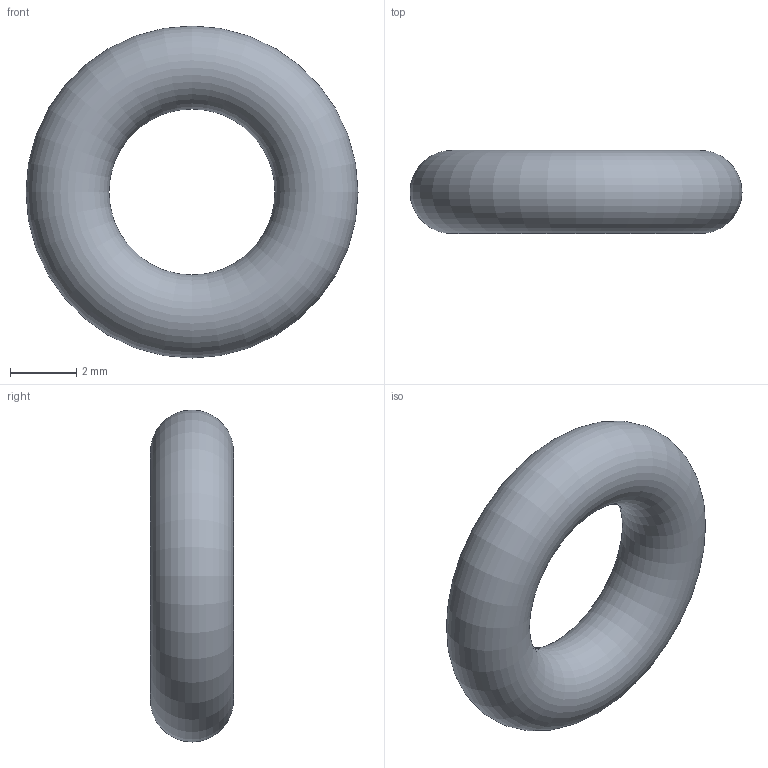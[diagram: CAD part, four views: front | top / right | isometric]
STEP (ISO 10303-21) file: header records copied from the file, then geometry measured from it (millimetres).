
FILE_DESCRIPTION( ( 'STEP AP203' ), '1' );
FILE_NAME( 'C:/Temp/Ganter_Step_05_03_2020/data/3_5/or638/O-Ring OR638-5.00-2.50-70.stp', '2020-03-12T13:44:26', ( 'License CC BY-ND 4.0' ), ( 'CADENAS' ), ' ', 'PARTsolutions', ' ' );
FILE_SCHEMA( ( 'CONFIG_CONTROL_DESIGN' ) );
Length unit declared in the file: millimetre
Products named in the file (1): _O-Ring OR638-5.00-2.50-70
Bounding box: 10 x 2.5 x 10 mm (x, y, z)
Volume: 115.7 mm3; surface area: 185.1 mm2
Topology: 1 solids, 1 shells, 1 faces, 2 edges, 1 vertices
Faces by surface type: torus 1
Entity records: 62 total; most frequent: CC_DESIGN_PERSON_AND_ORGANIZATION_ASSIGNMENT 5, PERSON_AND_ORGANIZATION_ROLE 4, DIRECTION 4, CARTESIAN_POINT 3, DATE_TIME_ROLE 2, CC_DESIGN_DATE_AND_TIME_ASSIGNMENT 2, AXIS2_PLACEMENT_3D 2, DIMENSIONAL_EXPONENTS 2
